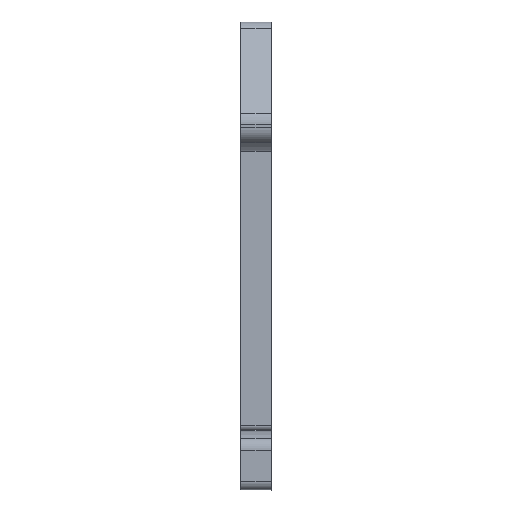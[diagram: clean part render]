
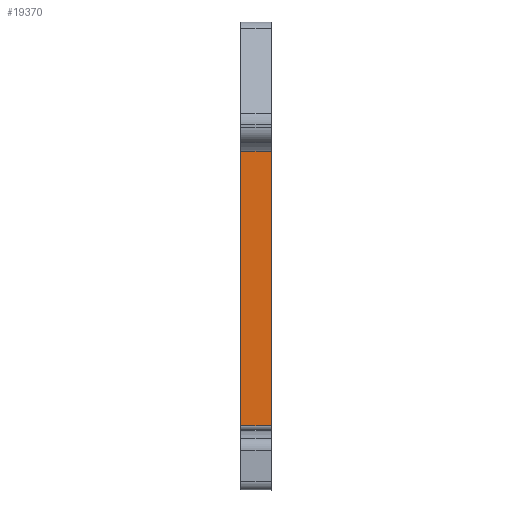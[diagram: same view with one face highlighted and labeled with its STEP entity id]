
A CAD part, top view. The second image highlights one B-rep face of the part: STEP entity #19370.
In plain terms, the highlighted planar face has unit normal (0, 0, 1).
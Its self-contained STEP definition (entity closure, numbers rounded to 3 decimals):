
#2883=DIRECTION('',(1.,0.,0.));
#2884=VECTOR('',#2883,3.5);
#2885=CARTESIAN_POINT('',(-3.5,-45.478,
24.5));
#2886=LINE('',#2885,#2884);
#2887=DIRECTION('',(0.,1.,0.));
#2888=VECTOR('',#2887,33.053);
#2889=CARTESIAN_POINT('',(-3.5,-45.478,
24.5));
#2890=LINE('',#2889,#2888);
#2891=DIRECTION('',(-1.,0.,0.));
#2892=VECTOR('',#2891,3.5);
#2893=CARTESIAN_POINT('',(0.,-12.425,
24.5));
#2894=LINE('',#2893,#2892);
#3931=DIRECTION('',(0.,1.,0.));
#3932=VECTOR('',#3931,33.053);
#3933=CARTESIAN_POINT('',(0.,-45.478,
24.5));
#3934=LINE('',#3933,#3932);
#13252=CARTESIAN_POINT('',(-3.5,-12.425,
24.5));
#13253=VERTEX_POINT('',#13252);
#13254=CARTESIAN_POINT('',(-3.5,-45.478,
24.5));
#13255=VERTEX_POINT('',#13254);
#13778=CARTESIAN_POINT('',(0.,-45.478,
24.5));
#13779=VERTEX_POINT('',#13778);
#13780=CARTESIAN_POINT('',(0.,-12.425,
24.5));
#13781=VERTEX_POINT('',#13780);
#19357=CARTESIAN_POINT('',(0.088,-11.599,
24.5));
#19358=DIRECTION('',(0.,0.,-1.));
#19359=DIRECTION('',(0.,-1.,0.));
#19360=AXIS2_PLACEMENT_3D('',#19357,#19358,#19359);
#19361=PLANE('',#19360);
#19362=ORIENTED_EDGE('',*,*,#19350,.F.);
#19363=ORIENTED_EDGE('',*,*,#17119,.T.);
#19365=ORIENTED_EDGE('',*,*,#19364,.F.);
#19367=ORIENTED_EDGE('',*,*,#19366,.F.);
#19368=EDGE_LOOP('',(#19362,#19363,#19365,#19367));
#19369=FACE_OUTER_BOUND('',#19368,.F.);
#19370=ADVANCED_FACE('',(#19369),#19361,.F.);
#17119=EDGE_CURVE('',#13255,#13253,#2890,.T.);
#19350=EDGE_CURVE('',#13255,#13779,#2886,.T.);
#19364=EDGE_CURVE('',#13781,#13253,#2894,.T.);
#19366=EDGE_CURVE('',#13779,#13781,#3934,.T.);
